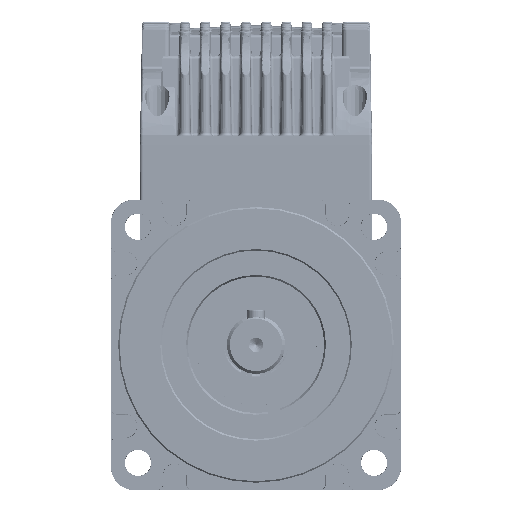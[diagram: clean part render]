
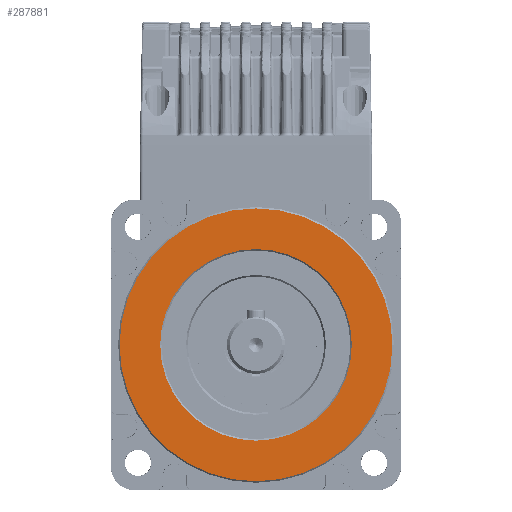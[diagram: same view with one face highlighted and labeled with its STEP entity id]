
A CAD part, front view. The second image highlights one B-rep face of the part: STEP entity #287881.
In plain terms, the highlighted planar face has unit normal (0, -1, 0).
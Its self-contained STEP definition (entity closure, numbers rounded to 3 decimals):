
#287711=AXIS2_PLACEMENT_3D('Circle Axis2P3D',#287709,#287710,$) ;
#287720=AXIS2_PLACEMENT_3D('Circle Axis2P3D',#287718,#287719,$) ;
#287758=AXIS2_PLACEMENT_3D('Circle Axis2P3D',#287756,#287757,$) ;
#287765=AXIS2_PLACEMENT_3D('Circle Axis2P3D',#287763,#287764,$) ;
#287798=AXIS2_PLACEMENT_3D('Circle Axis2P3D',#287796,#287797,$) ;
#287805=AXIS2_PLACEMENT_3D('Circle Axis2P3D',#287803,#287804,$) ;
#287838=AXIS2_PLACEMENT_3D('Circle Axis2P3D',#287836,#287837,$) ;
#287845=AXIS2_PLACEMENT_3D('Circle Axis2P3D',#287843,#287844,$) ;
#287867=AXIS2_PLACEMENT_3D('Plane Axis2P3D',#287864,#287865,#287866) ;
#287709=CARTESIAN_POINT('Axis2P3D Location',(0.,-2.5,0.)) ;
#287713=CARTESIAN_POINT('Vertex',(33.,-2.5,0.)) ;
#287715=CARTESIAN_POINT('Vertex',(0.,-2.5,-33.)) ;
#287718=CARTESIAN_POINT('Axis2P3D Location',(0.,-2.5,0.)) ;
#287722=CARTESIAN_POINT('Vertex',(0.,-2.5,33.)) ;
#287756=CARTESIAN_POINT('Axis2P3D Location',(0.,-2.5,0.)) ;
#287760=CARTESIAN_POINT('Vertex',(-33.,-2.5,0.)) ;
#287763=CARTESIAN_POINT('Axis2P3D Location',(0.,-2.5,0.)) ;
#287793=CARTESIAN_POINT('Vertex',(0.,-2.5,47.)) ;
#287796=CARTESIAN_POINT('Axis2P3D Location',(0.,-2.5,0.)) ;
#287800=CARTESIAN_POINT('Vertex',(47.,-2.5,0.)) ;
#287803=CARTESIAN_POINT('Axis2P3D Location',(0.,-2.5,0.)) ;
#287807=CARTESIAN_POINT('Vertex',(0.,-2.5,-47.)) ;
#287836=CARTESIAN_POINT('Axis2P3D Location',(0.,-2.5,0.)) ;
#287840=CARTESIAN_POINT('Vertex',(-47.,-2.5,0.)) ;
#287843=CARTESIAN_POINT('Axis2P3D Location',(0.,-2.5,0.)) ;
#287864=CARTESIAN_POINT('Axis2P3D Location',(0.,-2.5,21.5)) ;
#287710=DIRECTION('Axis2P3D Direction',(0.,-1.,0.)) ;
#287719=DIRECTION('Axis2P3D Direction',(0.,-1.,0.)) ;
#287757=DIRECTION('Axis2P3D Direction',(0.,-1.,0.)) ;
#287764=DIRECTION('Axis2P3D Direction',(0.,-1.,0.)) ;
#287797=DIRECTION('Axis2P3D Direction',(0.,1.,0.)) ;
#287804=DIRECTION('Axis2P3D Direction',(0.,1.,0.)) ;
#287837=DIRECTION('Axis2P3D Direction',(0.,1.,0.)) ;
#287844=DIRECTION('Axis2P3D Direction',(0.,1.,0.)) ;
#287865=DIRECTION('Axis2P3D Direction',(0.,-1.,0.)) ;
#287866=DIRECTION('Axis2P3D XDirection',(0.,0.,-1.)) ;
#287870=ORIENTED_EDGE('',*,*,#287802,.T.) ;
#287871=ORIENTED_EDGE('',*,*,#287847,.T.) ;
#287872=ORIENTED_EDGE('',*,*,#287842,.T.) ;
#287873=ORIENTED_EDGE('',*,*,#287809,.T.) ;
#287876=ORIENTED_EDGE('',*,*,#287717,.T.) ;
#287877=ORIENTED_EDGE('',*,*,#287767,.T.) ;
#287878=ORIENTED_EDGE('',*,*,#287762,.T.) ;
#287879=ORIENTED_EDGE('',*,*,#287724,.T.) ;
#287880=FACE_BOUND('',#287875,.T.) ;
#287881=ADVANCED_FACE('N33454',(#287874,#287880),#287868,.T.) ;
#287712=CIRCLE('generated circle',#287711,33.) ;
#287721=CIRCLE('generated circle',#287720,33.) ;
#287759=CIRCLE('generated circle',#287758,33.) ;
#287766=CIRCLE('generated circle',#287765,33.) ;
#287799=CIRCLE('generated circle',#287798,47.) ;
#287806=CIRCLE('generated circle',#287805,47.) ;
#287839=CIRCLE('generated circle',#287838,47.) ;
#287846=CIRCLE('generated circle',#287845,47.) ;
#287717=EDGE_CURVE('',#287714,#287716,#287712,.F.) ;
#287724=EDGE_CURVE('',#287723,#287714,#287721,.F.) ;
#287762=EDGE_CURVE('',#287761,#287723,#287759,.F.) ;
#287767=EDGE_CURVE('',#287716,#287761,#287766,.F.) ;
#287802=EDGE_CURVE('',#287801,#287794,#287799,.F.) ;
#287809=EDGE_CURVE('',#287808,#287801,#287806,.F.) ;
#287842=EDGE_CURVE('',#287841,#287808,#287839,.F.) ;
#287847=EDGE_CURVE('',#287794,#287841,#287846,.F.) ;
#287869=EDGE_LOOP('',(#287870,#287871,#287872,#287873)) ;
#287875=EDGE_LOOP('',(#287876,#287877,#287878,#287879)) ;
#287874=FACE_OUTER_BOUND('',#287869,.T.) ;
#287868=PLANE('Plane',#287867) ;
#287714=VERTEX_POINT('',#287713) ;
#287716=VERTEX_POINT('',#287715) ;
#287723=VERTEX_POINT('',#287722) ;
#287761=VERTEX_POINT('',#287760) ;
#287794=VERTEX_POINT('',#287793) ;
#287801=VERTEX_POINT('',#287800) ;
#287808=VERTEX_POINT('',#287807) ;
#287841=VERTEX_POINT('',#287840) ;
